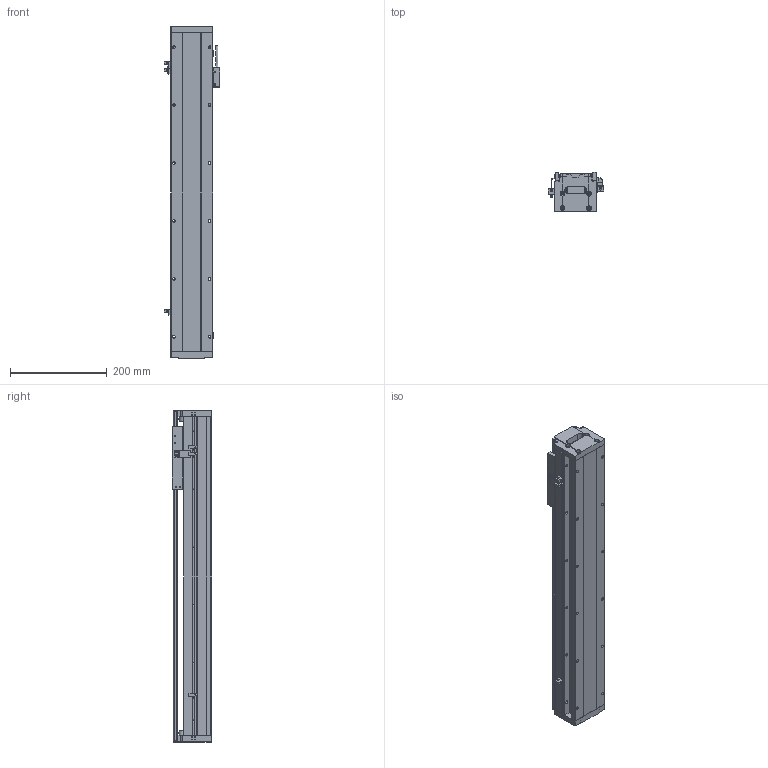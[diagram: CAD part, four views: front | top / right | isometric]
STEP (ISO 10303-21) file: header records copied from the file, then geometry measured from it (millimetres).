
FILE_DESCRIPTION (( 'STEP AP214' ), '1' );
FILE_NAME ('STC086-A-P-0490-F105-MB-010-0.3.STEP', '2023-05-11T03:05:56', ( '' ), ( '' ), 'SwSTEP 2.0', 'SolidWorks 2018', '' );
FILE_SCHEMA (( 'AUTOMOTIVE_DESIGN' ));
Length unit declared in the file: millimetre
Products named in the file (43): HC-U-02-Lxxx棠掑喜; 蝶菜17x14x10; STK013-01（磁栅压块）; 086-Lxxxx菁釱; 絳寢SRS12M+xxxxL-G10; STK080-F105賑怢蚾饜极; STK0066-001（086端盖）; 086-SE1-040-S賑怢; SF-202NA-W（光电开关）; LMD-2-R001-V5-L0.3-C0-F00（磁栅编码器）; 賑輸SRS12M; SKT0112-02（线缆固定件）; STK0112-01（感应片）(默认); SE040隅赽; 086-Lxxxx裔啣; STK0086-001（086读头固定块）; STC086-A-P-0490-F105-MB-010-0.3
Assembly tree (27 placements, depth 3):
  HC-U-02-Lxxx棠掑喜
  蝶菜17x14x10
  STK013-01（磁栅压块）
  絳寢SRS12M+xxxxL-G10
  STK0066-001（086端盖）
Bounding box: 114.4 x 81 x 688 mm (x, y, z)
Volume: 2265105.2 mm3; surface area: 714910.3 mm2
Topology: 26 solids, 26 shells, 1890 faces, 5232 edges, 3337 vertices
Faces by surface type: plane 913, cylinder 793, cone 160, torus 14, bspline 6, sphere 4
Entity records: 44706 total; most frequent: CARTESIAN_POINT 9060, ORIENTED_EDGE 7198, DIRECTION 7189, EDGE_CURVE 3599, AXIS2_PLACEMENT_3D 2512, VERTEX_POINT 2355, VECTOR 2165, LINE 2165
